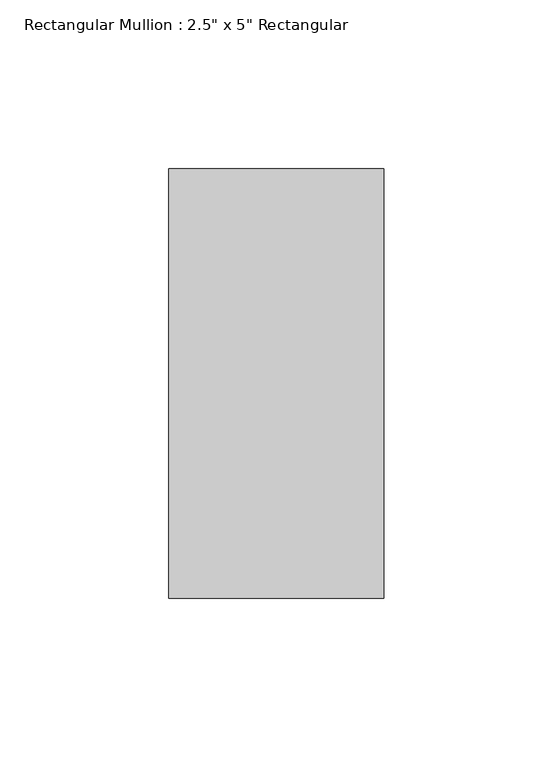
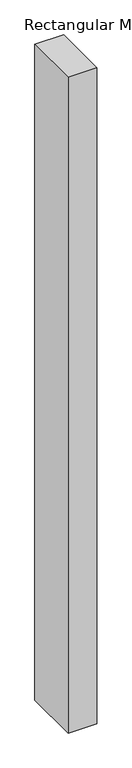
"""IFC4 building model written with IfcOpenShell, lengths in millimetres: member geometry."""

import ifcopenshell
import ifcopenshell.guid

model = None  # the IFC model being written
_history = None  # IfcOwnerHistory: only IFC2X3 demands one
_inside = {}  # id of a spatial element -> (the spatial element, [elements in it])
_under = {}  # id of a project, library or spatial element -> (it, [spatial elements below it])
_declared = {}  # id of a project -> (the project, [libraries it declares])
_typed = {}  # id of a type object -> (the type object, [elements of that type])
_made_of = {}  # id of a material, layer set ... -> (it, [elements and type objects made of it])


def new_model(schema):
    """Start an empty IFC model of exactly this schema.

    Asked for "IFC4X3", IfcOpenShell would pick the latest addendum, in which some entities
    have other attributes; the version numbers below select the first issue.
    IFC2X3 requires an IfcOwnerHistory on every rooted entity: one is made here for all.
    """
    global model, _history
    if schema == "IFC4X3":
        model = ifcopenshell.file(schema_version=(4, 3, 0, 0))
    else:
        model = ifcopenshell.file(schema=schema)
    _inside.clear()
    _under.clear()
    _declared.clear()
    _typed.clear()
    _made_of.clear()
    _history = None
    if model.schema == "IFC2X3":
        org = make("IfcOrganization", Name="unknown")
        user = make(
            "IfcPersonAndOrganization",
            ThePerson=make("IfcPerson", FamilyName="unknown"),
            TheOrganization=org,
        )
        app = make(
            "IfcApplication",
            ApplicationDeveloper=org,
            Version="unknown",
            ApplicationFullName="unknown",
            ApplicationIdentifier="unknown",
        )
        _history = make(
            "IfcOwnerHistory",
            OwningUser=user,
            OwningApplication=app,
            ChangeAction="ADDED",
            CreationDate=0,
        )
    return model


def make(cls, **values):
    """One entity of the class cls with the attributes given. An attribute that is None is left unset."""
    return model.create_entity(
        cls, **{name: value for name, value in values.items() if value is not None}
    )


def rooted(cls, **values):
    """An entity with a GlobalId (a new one), such as an element, a storey or a relation."""
    return make(cls, GlobalId=ifcopenshell.guid.new(), OwnerHistory=_history, **values)


def si_unit(unit_type, name, prefix=None):
    """IfcSIUnit, for example si_unit("LENGTHUNIT", "METRE", prefix="MILLI")."""
    return make("IfcSIUnit", UnitType=unit_type, Prefix=prefix, Name=name)


def assignment(units):
    """IfcUnitAssignment: the units of a project."""
    return None if units is None else make("IfcUnitAssignment", Units=units)


def point(xyz):
    """IfcCartesianPoint."""
    return None if xyz is None else make("IfcCartesianPoint", Coordinates=xyz)


def direction(xyz):
    """IfcDirection."""
    return None if xyz is None else make("IfcDirection", DirectionRatios=xyz)


def frame(location, z_axis=None, x_axis=None):
    """IfcAxis2Placement3D, a coordinate frame: its origin and axes. An axis left out is left unset."""
    return make(
        "IfcAxis2Placement3D",
        Location=point(location),
        Axis=direction(z_axis),
        RefDirection=direction(x_axis),
    )


def origin():
    """The frame at (0, 0, 0) with its axes left unset."""
    return frame((0.0, 0.0, 0.0))


def place(relative_to, where):
    """IfcLocalPlacement: puts the frame where relative to a parent placement (None: the world)."""
    return make(
        "IfcLocalPlacement", PlacementRelTo=relative_to, RelativePlacement=where
    )


def context(
    kind, dimensions, precision=None, world=None, true_north=None, identifier=None
):
    """IfcGeometricRepresentationContext, for example the 3D "Model" context."""
    return make(
        "IfcGeometricRepresentationContext",
        ContextIdentifier=identifier,
        ContextType=kind,
        CoordinateSpaceDimension=dimensions,
        Precision=precision,
        WorldCoordinateSystem=world,
        TrueNorth=true_north,
    )


def project(units=None, contexts=None):
    """IfcProject with its units and contexts."""
    return rooted(
        "IfcProject",
        Name="project",
        RepresentationContexts=contexts,
        UnitsInContext=assignment(units),
    )


def spatial(cls, under=None, at=None, **own):
    """A site, building, storey or space (cls), placed at a placement, below another one or the project."""
    s = rooted(cls, ObjectPlacement=at, **own)
    if under is not None:
        _under.setdefault(under.id(), (under, []))[1].append(s)
    return s


def polyline(points):
    """IfcPolyline through the points."""
    return make("IfcPolyline", Points=[point(p) for p in points])


def outline(outer, holes=None, kind="AREA"):
    """IfcArbitraryClosedProfileDef: a profile drawn as a closed curve; with holes, ...WithVoids."""
    if holes is None:
        return make("IfcArbitraryClosedProfileDef", ProfileType=kind, OuterCurve=outer)
    return make(
        "IfcArbitraryProfileDefWithVoids",
        ProfileType=kind,
        OuterCurve=outer,
        InnerCurves=holes,
    )


def extrude(swept, where, along, depth):
    """IfcExtrudedAreaSolid: the profile swept, set in the frame where, extruded along a direction by depth."""
    return make(
        "IfcExtrudedAreaSolid",
        SweptArea=swept,
        Position=where,
        ExtrudedDirection=direction(along),
        Depth=depth,
    )


def shape(context_of_items, identifier, shape_type, items):
    """IfcShapeRepresentation: the items that make up one representation, for example the "Body"."""
    return make(
        "IfcShapeRepresentation",
        ContextOfItems=context_of_items,
        RepresentationIdentifier=identifier,
        RepresentationType=shape_type,
        Items=items,
    )


def source(mapping_origin, context_of_items, identifier, shape_type, items):
    """IfcRepresentationMap: a shape defined once, which mapped items show again and again."""
    return make(
        "IfcRepresentationMap",
        MappingOrigin=mapping_origin,
        MappedRepresentation=shape(context_of_items, identifier, shape_type, items),
    )


def transform(
    local_origin,
    x_axis=None,
    y_axis=None,
    z_axis=None,
    scale=None,
    scale2=None,
    scale3=None,
    uniform=True,
):
    """IfcCartesianTransformationOperator3D, or its non-uniform kind. x_axis, y_axis, z_axis: its Axis1, 2, 3."""
    if uniform:
        return make(
            "IfcCartesianTransformationOperator3D",
            Axis1=direction(x_axis),
            Axis2=direction(y_axis),
            LocalOrigin=point(local_origin),
            Scale=scale,
            Axis3=direction(z_axis),
        )
    return make(
        "IfcCartesianTransformationOperator3DnonUniform",
        Axis1=direction(x_axis),
        Axis2=direction(y_axis),
        LocalOrigin=point(local_origin),
        Scale=scale,
        Axis3=direction(z_axis),
        Scale2=scale2,
        Scale3=scale3,
    )


def mapped(mapping_source, mapping_target):
    """IfcMappedItem: shows the shape of a source again, moved by a transform."""
    return make(
        "IfcMappedItem", MappingSource=mapping_source, MappingTarget=mapping_target
    )


def made_of(thing, what):
    """Note that an element or type object is made of a material, layer set ...; save() writes the relation."""
    if what is not None:
        _made_of.setdefault(what.id(), (what, []))[1].append(thing)
    return thing


def element(
    cls,
    number,
    at=None,
    inside=None,
    cuts=None,
    type_object=None,
    material=None,
    context=None,
    identifier="Body",
    shape_type=None,
    held_by="IfcProductDefinitionShape",
    body=None,
    shapes=None,
    **own,
):
    """One element of the class cls, such as IfcWall. Its Tag is "e" and its number.

    at: its placement. inside: the storey or other place that contains it. cuts: it is an
    opening in that element (IfcRelVoidsElement). A single representation is given by context,
    identifier, shape_type and body (its items); several are given by shapes. held_by: the class
    of the entity that holds the representations. save() writes the other relations.
    """
    e = rooted(cls, Tag="e%d" % number, ObjectPlacement=at, **own)
    if body is not None:
        shapes = [shape(context, identifier, shape_type, body)]
    if shapes is not None:
        e.Representation = make(held_by, Representations=shapes)
    if inside is not None:
        _inside.setdefault(inside.id(), (inside, []))[1].append(e)
    if cuts is not None:
        rooted(
            "IfcRelVoidsElement", RelatingBuildingElement=cuts, RelatedOpeningElement=e
        )
    if type_object is not None:
        _typed.setdefault(type_object.id(), (type_object, []))[1].append(e)
    return made_of(e, material)


def aggregate(whole, parts):
    """IfcRelAggregates: a whole, such as a stair, and the parts it consists of."""
    return rooted("IfcRelAggregates", RelatingObject=whole, RelatedObjects=parts)


def save(model, path):
    """Write the relations noted so far, then the file.

    IfcRelAggregates (storeys below a building ...), IfcRelContainedInSpatialStructure (elements
    in a storey), IfcRelDefinesByType, IfcRelAssociatesMaterial and IfcRelDeclares: one each for
    every whole, place, type object, material and project.
    """
    for whole, parts in _under.values():
        aggregate(whole, parts)
    for where, things in _inside.values():
        rooted(
            "IfcRelContainedInSpatialStructure",
            RelatedElements=things,
            RelatingStructure=where,
        )
    for kind, things in _typed.values():
        rooted("IfcRelDefinesByType", RelatedObjects=things, RelatingType=kind)
    for what, things in _made_of.values():
        rooted("IfcRelAssociatesMaterial", RelatedObjects=things, RelatingMaterial=what)
    for by, libraries in _declared.values():
        rooted("IfcRelDeclares", RelatingContext=by, RelatedDefinitions=libraries)
    model.write(path)


def member_00d5a04f(model_context):
    return source(origin(), model_context, "Body", "SweptSolid", [
        extrude(outline(polyline([(0.0, 63.5), (0.0, -63.5), (-63.5, -63.5), (-63.5, 63.5), (0.0, 63.5)])), frame((0.0, 0.0, -1533.495419), z_axis=(0.0, 0.0, 1.0), x_axis=(1.0, 0.0, 0.0)), (0.0, 0.0, 1.0), 1533.495419),
    ])


if __name__ == "__main__":
    model = new_model("IFC4")
    model_context = context("Model", 3, world=origin())
    ifc_project = project(units=[si_unit("LENGTHUNIT", "METRE", prefix="MILLI")], contexts=[model_context])
    site = spatial("IfcSite", under=ifc_project)
    building = spatial("IfcBuilding", under=site)
    placement = place(None, origin())
    member_shape = member_00d5a04f(model_context)
    element("IfcMember", 1, ObjectType="Rectangular Mullion : 2.5\" x 5\" Rectangular", at=placement, inside=building, context=model_context, shape_type="MappedRepresentation", body=[
        mapped(member_shape, transform((0.0, 0.0, 0.0), x_axis=(1.0, 0.0, 0.0), y_axis=(0.0, 1.0, 0.0), z_axis=(0.0, 0.0, 1.0))),
    ])
    save(model, "model.ifc")
